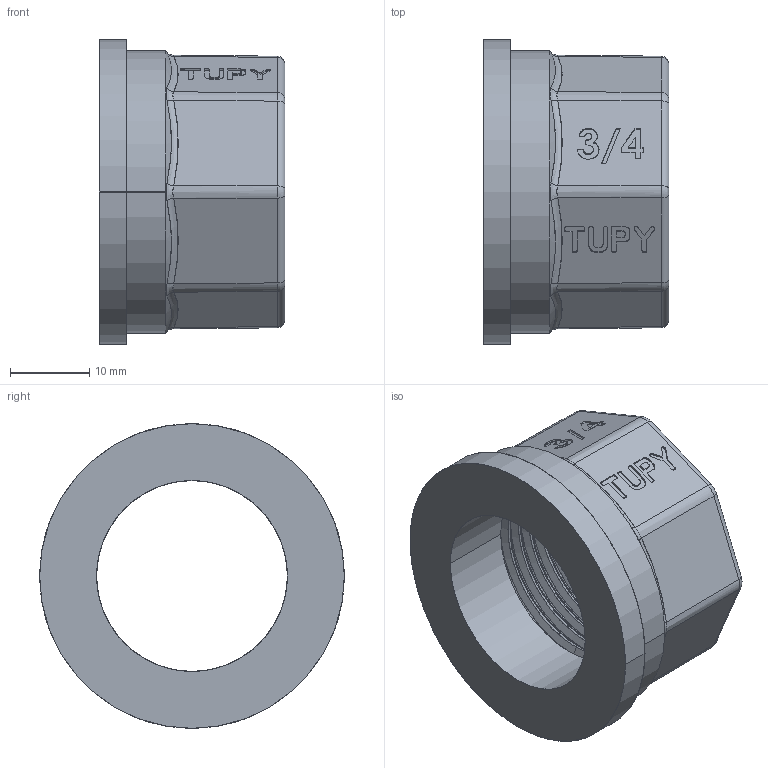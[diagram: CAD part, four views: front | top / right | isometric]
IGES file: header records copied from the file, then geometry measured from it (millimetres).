
Start section: SolidWorks IGES file using analytic representation for surfaces
Global section: file name: C:\Users\Joel Rosa\Desktop\Tubulação\12-83-OK\12-83-006.IGS; native system: SolidWorks 2011; preprocessor: SolidWorks 2011; author: Joel Rosa; date: 131216.233646; units: millimetre
Bounding box: 23.5 x 38.5 x 38.5 mm (x, y, z)
Surface area: 6384 mm2 (no closed solid volume)
Topology: 0 solids, 0 shells, 245 faces, 2195 edges, 2195 vertices
Faces by surface type: bspline 185, revolution 60
